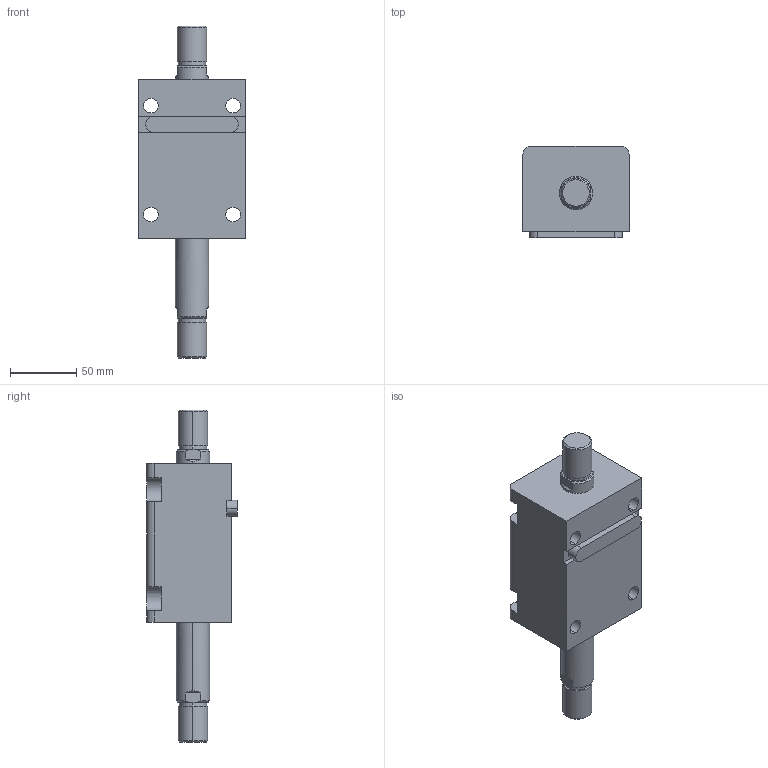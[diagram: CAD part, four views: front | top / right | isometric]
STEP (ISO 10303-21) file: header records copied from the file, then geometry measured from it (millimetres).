
FILE_DESCRIPTION (( 'STEP AP203' ), '1' );
FILE_NAME ('HTB-LW40-50W.STEP', '2019-10-09T07:56:14', ( '微软用户' ), ( '微软中国' ), 'SwSTEP 2.0', 'SolidWorks 2012', '' );
FILE_SCHEMA (( 'CONFIG_CONTROL_DESIGN' ));
Length unit declared in the file: millimetre
Products named in the file (4): HTB-LW40-50W; HTB-LA40-瑩; HTB-LW40-50W活塞杆; HTB-LW40-50掛极
Assembly tree (3 placements, depth 2):
  HTB-LW40-50W
    HTB-LW40-50掛极
    HTB-LW40-50W活塞杆
    HTB-LA40-瑩
Bounding box: 80 x 68.5 x 250 mm (x, y, z)
Volume: 599215.8 mm3; surface area: 91530.2 mm2
Topology: 3 solids, 3 shells, 113 faces, 273 edges, 178 vertices
Faces by surface type: plane 48, cylinder 45, cone 12, torus 8
Entity records: 3779 total; most frequent: CARTESIAN_POINT 622, DIRECTION 617, ORIENTED_EDGE 546, EDGE_CURVE 273, AXIS2_PLACEMENT_3D 241, VERTEX_POINT 178, EDGE_LOOP 135, LINE 135
